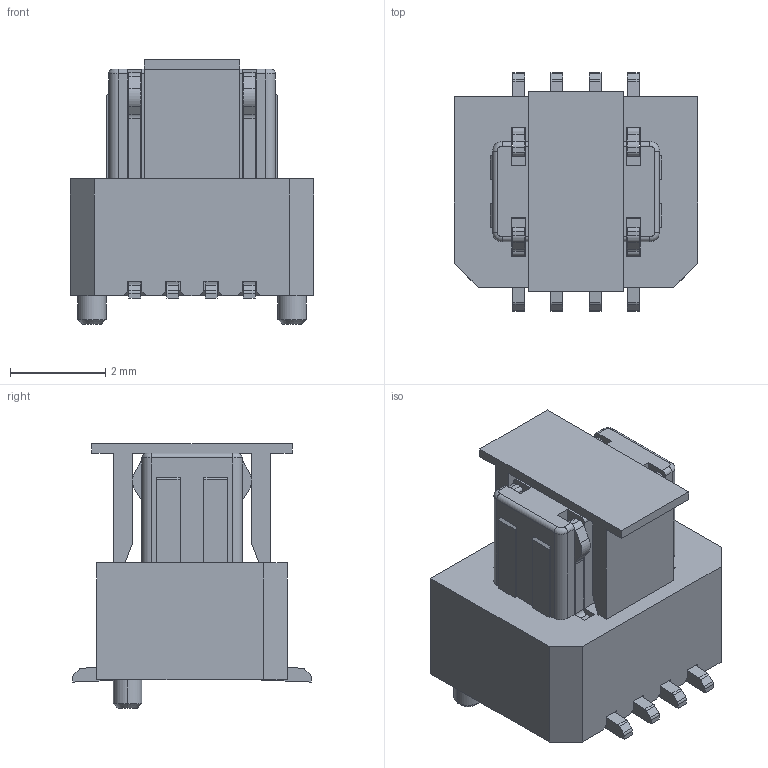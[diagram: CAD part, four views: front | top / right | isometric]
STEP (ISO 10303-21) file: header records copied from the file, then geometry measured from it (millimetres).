
FILE_DESCRIPTION(('CATIA V5 STEP Exchange'),'2;1');
FILE_NAME('F:\黄富鸿\板对板\PBB08B\公座\H4.8\带盖\HC-PBB08B-1-08-M-H4.8-XX-R-P-06 (BTB0.8 单槽 B型公座 立贴 带柱 编带+盖)-HCTL.stp','2026-01-28T02:18:38+00:00',('none'),('none'),'CATIA Version 5 Release 20 GA (IN-10)','CATIA V5 STEP AP203','none');
FILE_SCHEMA(('CONFIG_CONTROL_DESIGN'));
Length unit declared in the file: millimetre
Products named in the file (1): Part1
Bounding box: 5.1 x 5 x 5.55 mm (x, y, z)
Volume: 69.5 mm3; surface area: 297.5 mm2
Topology: 10 solids, 10 shells, 491 faces, 1424 edges, 940 vertices
Faces by surface type: plane 335, cylinder 148, cone 4, torus 4
Entity records: 15055 total; most frequent: ORIENTED_EDGE 2848, CARTESIAN_POINT 2697, DIRECTION 2088, EDGE_CURVE 1424, VECTOR 1120, LINE 1120, VERTEX_POINT 940, AXIS2_PLACEMENT_3D 637
